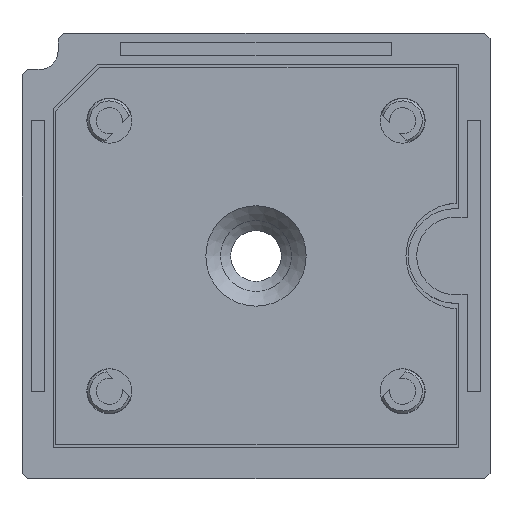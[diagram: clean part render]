
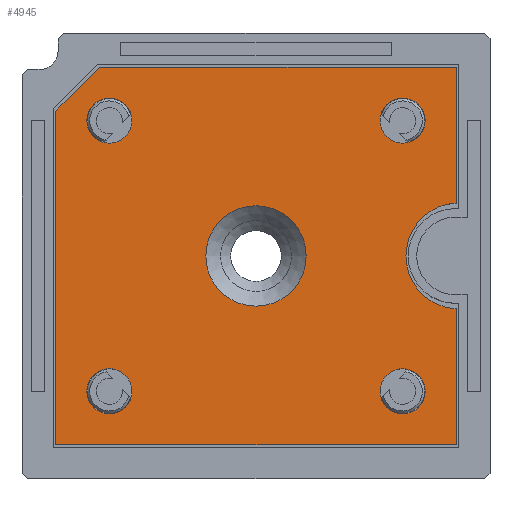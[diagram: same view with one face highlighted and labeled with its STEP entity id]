
A CAD part, top view. The second image highlights one B-rep face of the part: STEP entity #4945.
In plain terms, the highlighted planar face has unit normal (0, 0, 1).
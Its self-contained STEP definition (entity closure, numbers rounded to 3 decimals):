
#224=PLANE('',#5445);
#420=LINE('',#10909,#624);
#421=LINE('',#10912,#625);
#422=LINE('',#10914,#626);
#423=LINE('',#10915,#627);
#424=LINE('',#10917,#628);
#425=LINE('',#10919,#629);
#624=VECTOR('',#6575,1000.);
#625=VECTOR('',#6576,1000.);
#626=VECTOR('',#6577,1000.);
#627=VECTOR('',#6578,1000.);
#628=VECTOR('',#6579,1000.);
#629=VECTOR('',#6580,1000.);
#2400=ORIENTED_EDGE('',*,*,#3167,.T.);
#2401=ORIENTED_EDGE('',*,*,#3168,.T.);
#2402=ORIENTED_EDGE('',*,*,#3169,.T.);
#2403=ORIENTED_EDGE('',*,*,#3163,.T.);
#2404=ORIENTED_EDGE('',*,*,#3170,.T.);
#2405=ORIENTED_EDGE('',*,*,#3171,.T.);
#2406=ORIENTED_EDGE('',*,*,#3172,.T.);
#2407=ORIENTED_EDGE('',*,*,#3151,.T.);
#2408=ORIENTED_EDGE('',*,*,#3158,.F.);
#2409=ORIENTED_EDGE('',*,*,#3162,.F.);
#2410=ORIENTED_EDGE('',*,*,#3160,.F.);
#2411=ORIENTED_EDGE('',*,*,#3156,.F.);
#3151=EDGE_CURVE('',#3604,#3604,#3898,.T.);
#3156=EDGE_CURVE('',#3609,#3609,#3903,.T.);
#3158=EDGE_CURVE('',#3611,#3611,#3905,.T.);
#3160=EDGE_CURVE('',#3613,#3613,#3907,.T.);
#3162=EDGE_CURVE('',#3615,#3615,#3909,.T.);
#3163=EDGE_CURVE('',#3616,#3617,#3910,.T.);
#3167=EDGE_CURVE('',#3620,#3621,#420,.T.);
#3168=EDGE_CURVE('',#3621,#3622,#421,.T.);
#3169=EDGE_CURVE('',#3622,#3616,#422,.T.);
#3170=EDGE_CURVE('',#3617,#3623,#423,.T.);
#3171=EDGE_CURVE('',#3623,#3624,#424,.T.);
#3172=EDGE_CURVE('',#3624,#3620,#425,.T.);
#3604=VERTEX_POINT('',#10871);
#3609=VERTEX_POINT('',#10883);
#3611=VERTEX_POINT('',#10888);
#3613=VERTEX_POINT('',#10893);
#3615=VERTEX_POINT('',#10898);
#3616=VERTEX_POINT('',#10901);
#3617=VERTEX_POINT('',#10902);
#3620=VERTEX_POINT('',#10910);
#3621=VERTEX_POINT('',#10911);
#3622=VERTEX_POINT('',#10913);
#3623=VERTEX_POINT('',#10916);
#3624=VERTEX_POINT('',#10918);
#3898=CIRCLE('',#5425,4.45);
#3903=CIRCLE('',#5432,2.);
#3905=CIRCLE('',#5435,2.);
#3907=CIRCLE('',#5438,2.);
#3909=CIRCLE('',#5441,2.);
#3910=CIRCLE('',#5443,4.7);
#4246=EDGE_LOOP('',(#2400,#2401,#2402,#2403,#2404,#2405,#2406));
#4247=EDGE_LOOP('',(#2407));
#4248=EDGE_LOOP('',(#2408));
#4249=EDGE_LOOP('',(#2409));
#4250=EDGE_LOOP('',(#2410));
#4251=EDGE_LOOP('',(#2411));
#4600=FACE_BOUND('',#4246,.T.);
#4601=FACE_BOUND('',#4247,.T.);
#4602=FACE_BOUND('',#4248,.T.);
#4603=FACE_BOUND('',#4249,.T.);
#4604=FACE_BOUND('',#4250,.T.);
#4605=FACE_BOUND('',#4251,.T.);
#4945=ADVANCED_FACE('',(#4600,#4601,#4602,#4603,#4604,#4605),#224,.T.);
#5425=AXIS2_PLACEMENT_3D('',#10870,#6531,#6532);
#5432=AXIS2_PLACEMENT_3D('',#10882,#6545,#6546);
#5435=AXIS2_PLACEMENT_3D('',#10887,#6551,#6552);
#5438=AXIS2_PLACEMENT_3D('',#10892,#6557,#6558);
#5441=AXIS2_PLACEMENT_3D('',#10897,#6563,#6564);
#5443=AXIS2_PLACEMENT_3D('',#10900,#6567,#6568);
#5445=AXIS2_PLACEMENT_3D('',#10908,#6573,#6574);
#6531=DIRECTION('',(0.,0.,-1.));
#6532=DIRECTION('',(-1.,0.,0.));
#6545=DIRECTION('',(0.,0.,1.));
#6546=DIRECTION('',(1.,0.,0.));
#6551=DIRECTION('',(0.,0.,1.));
#6552=DIRECTION('',(1.,0.,0.));
#6557=DIRECTION('',(0.,0.,1.));
#6558=DIRECTION('',(1.,0.,0.));
#6563=DIRECTION('',(0.,0.,1.));
#6564=DIRECTION('',(1.,0.,0.));
#6567=DIRECTION('',(0.,0.,-1.));
#6568=DIRECTION('',(1.,0.,0.));
#6573=DIRECTION('',(0.,0.,1.));
#6574=DIRECTION('',(1.,0.,0.));
#6575=DIRECTION('',(0.,-1.,0.));
#6576=DIRECTION('',(1.,0.,0.));
#6577=DIRECTION('',(0.,1.,0.));
#6578=DIRECTION('',(0.,1.,0.));
#6579=DIRECTION('',(-1.,0.,0.));
#6580=DIRECTION('',(-0.707,-0.707,0.));
#10870=CARTESIAN_POINT('',(0.,0.,2.));
#10871=CARTESIAN_POINT('',(-4.45,0.,2.));
#10882=CARTESIAN_POINT('',(-13.,-12.,2.));
#10883=CARTESIAN_POINT('',(-11.,-12.,2.));
#10887=CARTESIAN_POINT('',(13.,-12.,2.));
#10888=CARTESIAN_POINT('',(15.,-12.,2.));
#10892=CARTESIAN_POINT('',(13.,12.,2.));
#10893=CARTESIAN_POINT('',(15.,12.,2.));
#10897=CARTESIAN_POINT('',(-13.,12.,2.));
#10898=CARTESIAN_POINT('',(-11.,12.,2.));
#10900=CARTESIAN_POINT('',(18.,0.,2.));
#10901=CARTESIAN_POINT('',(17.75,-4.693,2.));
#10902=CARTESIAN_POINT('',(17.75,4.693,2.));
#10908=CARTESIAN_POINT('',(18.,0.,2.));
#10909=CARTESIAN_POINT('',(-17.75,-16.75,2.));
#10910=CARTESIAN_POINT('',(-17.75,12.85,2.));
#10911=CARTESIAN_POINT('',(-17.75,-16.75,2.));
#10912=CARTESIAN_POINT('',(-17.75,-16.75,2.));
#10913=CARTESIAN_POINT('',(17.75,-16.75,2.));
#10914=CARTESIAN_POINT('',(17.75,-16.75,2.));
#10915=CARTESIAN_POINT('',(17.75,4.693,2.));
#10916=CARTESIAN_POINT('',(17.75,16.75,2.));
#10917=CARTESIAN_POINT('',(-13.85,16.75,2.));
#10918=CARTESIAN_POINT('',(-13.85,16.75,2.));
#10919=CARTESIAN_POINT('',(-17.75,12.85,2.));
